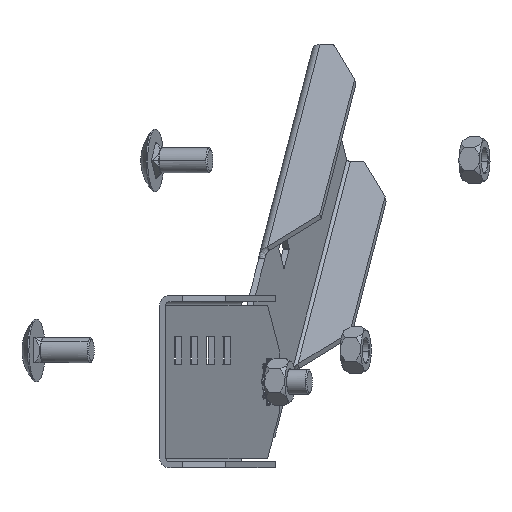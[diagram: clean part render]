
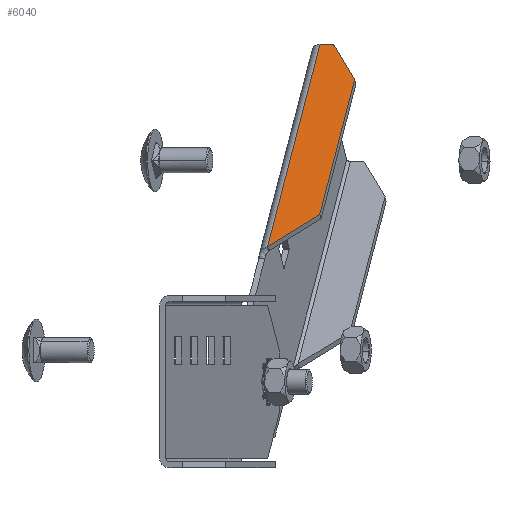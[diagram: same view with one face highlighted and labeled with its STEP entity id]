
A CAD part, left-side view. The second image highlights one B-rep face of the part: STEP entity #6040.
In plain terms, the highlighted planar face has unit normal (-0.683, 0.183, 0.707) as drawn and (0, 1, 0) by its records, which use the part's own axes.
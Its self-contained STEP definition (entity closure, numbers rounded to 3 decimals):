
#130=CARTESIAN_POINT('',(229.6,55.5,-3.));
#140=VERTEX_POINT('',#130);
#170=CARTESIAN_POINT('',(0.,55.5,-3.));
#180=DIRECTION('',(-1.,0.,0.));
#190=VECTOR('',#180,1.);
#200=LINE('',#170,#190);
#210=CARTESIAN_POINT('',(321.1,55.5,-3.));
#220=VERTEX_POINT('',#210);
#230=EDGE_CURVE('',#220,#140,#200,.T.);
#5660=CARTESIAN_POINT('',(229.6,55.5,-0.55));
#5670=DIRECTION('',(-0.,1.,0.));
#5680=DIRECTION('',(1.,0.,0.));
#5690=AXIS2_PLACEMENT_3D('',#5660,#5670,#5680);
#5700=PLANE('',#5690);
#5710=CARTESIAN_POINT('',(229.6,55.5,-0.55));
#5720=DIRECTION('',(0.,0.,-1.));
#5730=VECTOR('',#5720,1.);
#5740=LINE('',#5710,#5730);
#5750=CARTESIAN_POINT('',(229.6,55.5,-7.502));
#5760=VERTEX_POINT('',#5750);
#5770=EDGE_CURVE('',#140,#5760,#5740,.T.);
#5780=ORIENTED_EDGE('',*,*,#5770,.F.);
#5790=CARTESIAN_POINT('',(0.,55.5,135.968));
#5800=DIRECTION('',(0.848,0.,-0.53));
#5810=VECTOR('',#5800,1.);
#5820=LINE('',#5790,#5810);
#5830=CARTESIAN_POINT('',(245.6,55.5,-17.5));
#5840=VERTEX_POINT('',#5830);
#5850=EDGE_CURVE('',#5760,#5840,#5820,.T.);
#5860=ORIENTED_EDGE('',*,*,#5850,.F.);
#5870=CARTESIAN_POINT('',(0.,55.5,-17.5));
#5880=DIRECTION('',(-1.,0.,0.));
#5890=VECTOR('',#5880,1.);
#5900=LINE('',#5870,#5890);
#5910=CARTESIAN_POINT('',(306.6,55.5,-17.5));
#5920=VERTEX_POINT('',#5910);
#5930=EDGE_CURVE('',#5920,#5840,#5900,.T.);
#5940=ORIENTED_EDGE('',*,*,#5930,.T.);
#5950=CARTESIAN_POINT('',(376.05,55.5,51.95));
#5960=DIRECTION('',(0.707,0.,0.707));
#5970=VECTOR('',#5960,1.);
#5980=LINE('',#5950,#5970);
#5990=EDGE_CURVE('',#5920,#220,#5980,.T.);
#6000=ORIENTED_EDGE('',*,*,#5990,.F.);
#6010=ORIENTED_EDGE('',*,*,#230,.F.);
#6020=EDGE_LOOP('',(#6010,#6000,#5940,#5860,#5780));
#6030=FACE_OUTER_BOUND('',#6020,.T.);
#6040=ADVANCED_FACE('',(#6030),#5700,.T.);
